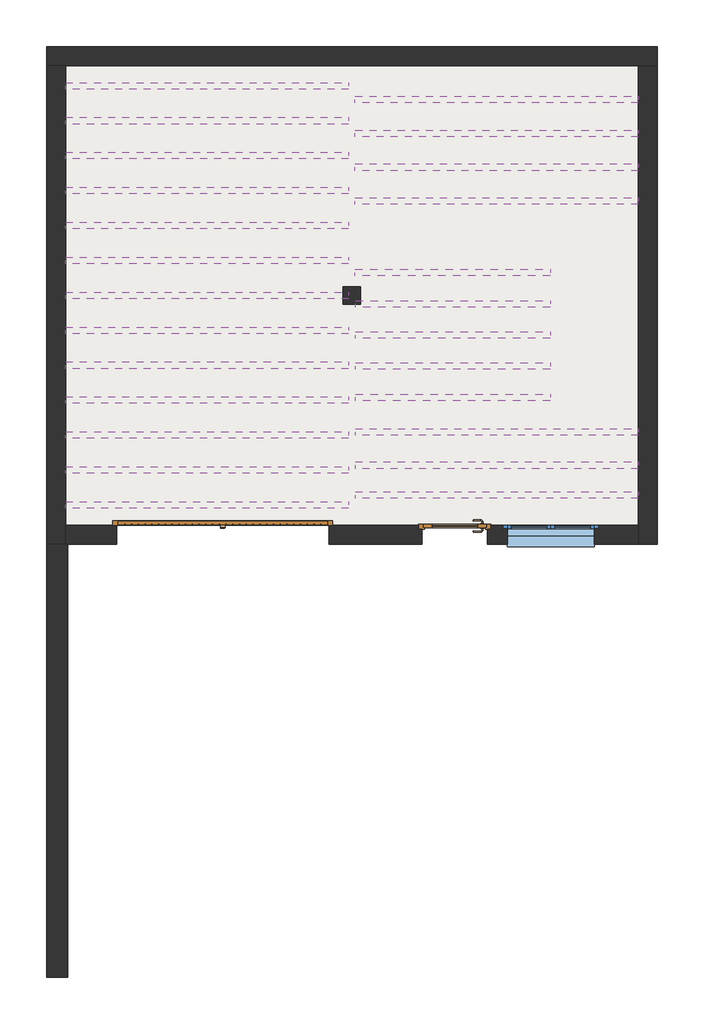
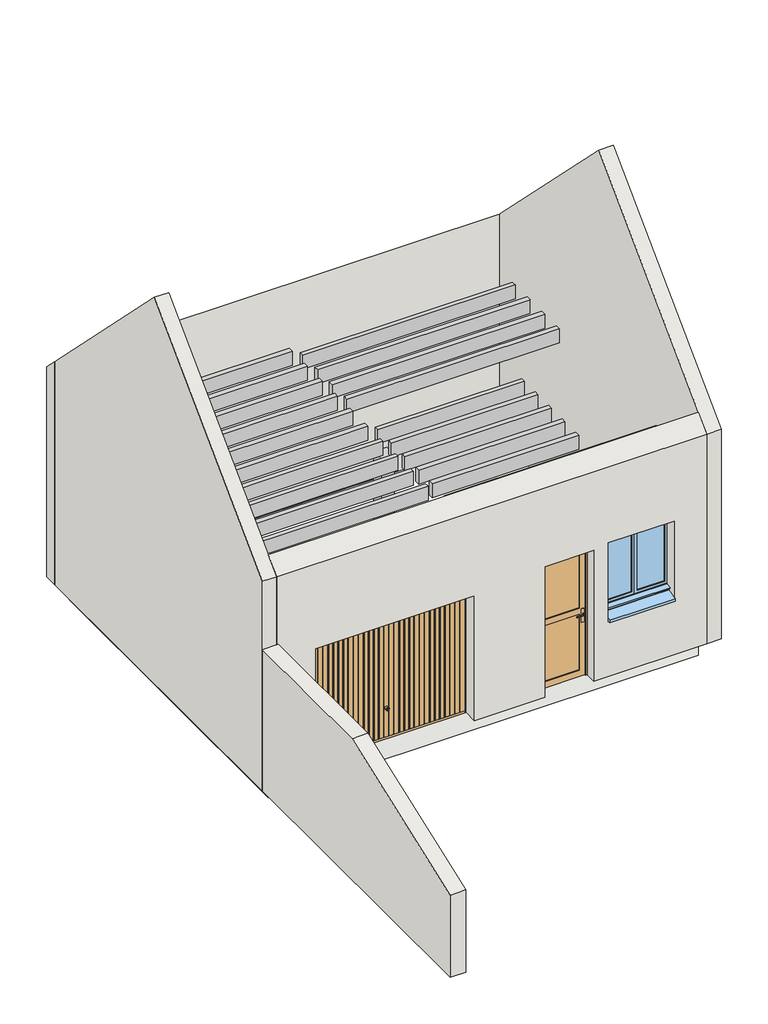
# One storey, incomplete: 25 beams, 5 walls, 2 doors, 1 column, 1 slab, 1 window.
"""IFC4 building model written with IfcOpenShell, lengths in millimetres."""

from ifc_helpers import new_model, si_unit, frame, origin, place, context, project, spatial, polyline, outline, extrude, faceted_brep, transform, mapped, element, save
from components import beam_75x225_1d599c9f, beam_75x225_ac8073e9, beam_75x225_075d5b91, beam_75x225_b796b0c5, beam_75x225_947370aa, beam_75x225_e5a17f33, beam_75x225_548b8b28, beam_75x225_47b7fd17, beam_75x225_99bbb481, poteau_bois_200_x_200_9f611ec2, door_f3a96b27, door_0_73m_x_2_10m_d47f2a6c, window_100x115_8c406891

model = new_model("IFC4")

# Units and contexts
model_context = context("Model", 3, world=origin())
ifc_project = project(units=[si_unit("LENGTHUNIT", "METRE", prefix="MILLI")], contexts=[model_context])

# Site, building, storey
site = spatial("IfcSite", under=ifc_project)
building = spatial("IfcBuilding", under=site)
storey = spatial("IfcBuildingStorey", under=building, Name="Plan du rez de chaussée", Elevation=0.0)

# Beams
placement = place(None, origin())
beam_75x225_shape = beam_75x225_1d599c9f(model_context)
element("IfcBeam", 1, ObjectType="Madrier : 75x225", at=placement, inside=storey, context=model_context, shape_type="MappedRepresentation", body=[
    mapped(beam_75x225_shape, transform((1609.9723938, 28069.4326555, 2607.5), x_axis=(1.0, 0.0, 0.0), y_axis=(0.0, 1.0, 0.0), z_axis=(0.0, 0.0, 1.0))),
])
beam_75x225_2_shape = beam_75x225_ac8073e9(model_context)
element("IfcBeam", 2, ObjectType="Madrier : 75x225", at=placement, inside=storey, context=model_context, shape_type="MappedRepresentation", body=[
    mapped(beam_75x225_2_shape, transform((-1780.0276062, 28226.9326555, 2607.5), x_axis=(1.0, 0.0, 0.0), y_axis=(0.0, 1.0, 0.0), z_axis=(0.0, 0.0, 1.0))),
])
element("IfcBeam", 3, ObjectType="Madrier : 75x225", at=placement, inside=storey, context=model_context, shape_type="MappedRepresentation", body=[
    mapped(beam_75x225_2_shape, transform((-1780.0276062, 27826.9326555, 2607.5), x_axis=(1.0, 0.0, 0.0), y_axis=(0.0, 1.0, 0.0), z_axis=(0.0, 0.0, 1.0))),
])
element("IfcBeam", 4, ObjectType="Madrier : 75x225", at=placement, inside=storey, context=model_context, shape_type="MappedRepresentation", body=[
    mapped(beam_75x225_2_shape, transform((-1780.0276062, 27426.9326555, 2607.5), x_axis=(1.0, 0.0, 0.0), y_axis=(0.0, 1.0, 0.0), z_axis=(0.0, 0.0, 1.0))),
])
beam_75x225_3_shape = beam_75x225_075d5b91(model_context)
element("IfcBeam", 5, ObjectType="Madrier : 75x225", at=placement, inside=storey, context=model_context, shape_type="MappedRepresentation", body=[
    mapped(beam_75x225_3_shape, transform((-1743.7776062, 25826.9326555, 2607.5), x_axis=(1.0, 0.0, 0.0), y_axis=(0.0, 1.0, 0.0), z_axis=(0.0, 0.0, 1.0))),
])
element("IfcBeam", 6, ObjectType="Madrier : 75x225", at=placement, inside=storey, context=model_context, shape_type="MappedRepresentation", body=[
    mapped(beam_75x225_3_shape, transform((-1743.7776062, 25426.9326555, 2607.5), x_axis=(1.0, 0.0, 0.0), y_axis=(0.0, 1.0, 0.0), z_axis=(0.0, 0.0, 1.0))),
])
element("IfcBeam", 7, ObjectType="Madrier : 75x225", at=placement, inside=storey, context=model_context, shape_type="MappedRepresentation", body=[
    mapped(beam_75x225_3_shape, transform((-1743.7776062, 25026.9326555, 2607.5), x_axis=(1.0, 0.0, 0.0), y_axis=(0.0, 1.0, 0.0), z_axis=(0.0, 0.0, 1.0))),
])
element("IfcBeam", 8, ObjectType="Madrier : 75x225", at=placement, inside=storey, context=model_context, shape_type="MappedRepresentation", body=[
    mapped(beam_75x225_3_shape, transform((-1743.7776062, 24626.9326555, 2607.5), x_axis=(1.0, 0.0, 0.0), y_axis=(0.0, 1.0, 0.0), z_axis=(0.0, 0.0, 1.0))),
])
element("IfcBeam", 9, ObjectType="Madrier : 75x225", at=placement, inside=storey, context=model_context, shape_type="MappedRepresentation", body=[
    mapped(beam_75x225_3_shape, transform((-1743.7776062, 24226.9326555, 2607.5), x_axis=(1.0, 0.0, 0.0), y_axis=(0.0, 1.0, 0.0), z_axis=(0.0, 0.0, 1.0))),
])
element("IfcBeam", 10, ObjectType="Madrier : 75x225", at=placement, inside=storey, context=model_context, shape_type="MappedRepresentation", body=[
    mapped(beam_75x225_3_shape, transform((-1743.7776062, 23826.9326555, 2607.5), x_axis=(1.0, 0.0, 0.0), y_axis=(0.0, 1.0, 0.0), z_axis=(0.0, 0.0, 1.0))),
])
element("IfcBeam", 11, ObjectType="Madrier : 75x225", at=placement, inside=storey, context=model_context, shape_type="MappedRepresentation", body=[
    mapped(beam_75x225_3_shape, transform((-1743.7776062, 23426.9326555, 2607.5), x_axis=(1.0, 0.0, 0.0), y_axis=(0.0, 1.0, 0.0), z_axis=(0.0, 0.0, 1.0))),
])
beam_75x225_4_shape = beam_75x225_b796b0c5(model_context)
element("IfcBeam", 12, ObjectType="Madrier : 75x225", at=placement, inside=storey, context=model_context, shape_type="MappedRepresentation", body=[
    mapped(beam_75x225_4_shape, transform((1629.1310144, 23881.9326555, 2607.5), x_axis=(1.0, 0.0, 0.0), y_axis=(0.0, 1.0, 0.0), z_axis=(0.0, 0.0, 1.0))),
])
element("IfcBeam", 13, ObjectType="Madrier : 75x225", at=placement, inside=storey, context=model_context, shape_type="MappedRepresentation", body=[
    mapped(beam_75x225_4_shape, transform((1629.1310144, 23539.4326555, 2607.5), x_axis=(1.0, 0.0, 0.0), y_axis=(0.0, 1.0, 0.0), z_axis=(0.0, 0.0, 1.0))),
])
beam_75x225_5_shape = beam_75x225_947370aa(model_context)
element("IfcBeam", 14, ObjectType="Madrier : 75x225", at=placement, inside=storey, context=model_context, shape_type="MappedRepresentation", body=[
    mapped(beam_75x225_5_shape, transform((1069.9723938, 26087.3493222, 2607.5), x_axis=(1.0, 0.0, 0.0), y_axis=(0.0, 1.0, 0.0), z_axis=(0.0, 0.0, 1.0))),
])
beam_75x225_6_shape = beam_75x225_e5a17f33(model_context)
element("IfcBeam", 15, ObjectType="Madrier : 75x225", at=placement, inside=storey, context=model_context, shape_type="MappedRepresentation", body=[
    mapped(beam_75x225_6_shape, transform((1069.9723938, 25730.2659888, 2607.5), x_axis=(1.0, 0.0, 0.0), y_axis=(0.0, 1.0, 0.0), z_axis=(0.0, 0.0, 1.0))),
])
element("IfcBeam", 16, ObjectType="Madrier : 75x225", at=placement, inside=storey, context=model_context, shape_type="MappedRepresentation", body=[
    mapped(beam_75x225_6_shape, transform((1069.9723938, 25373.1826555, 2607.5), x_axis=(1.0, 0.0, 0.0), y_axis=(0.0, 1.0, 0.0), z_axis=(0.0, 0.0, 1.0))),
])
element("IfcBeam", 17, ObjectType="Madrier : 75x225", at=placement, inside=storey, context=model_context, shape_type="MappedRepresentation", body=[
    mapped(beam_75x225_6_shape, transform((1069.9723938, 25016.0993222, 2607.5), x_axis=(1.0, 0.0, 0.0), y_axis=(0.0, 1.0, 0.0), z_axis=(0.0, 0.0, 1.0))),
])
element("IfcBeam", 18, ObjectType="Madrier : 75x225", at=placement, inside=storey, context=model_context, shape_type="MappedRepresentation", body=[
    mapped(beam_75x225_6_shape, transform((1069.9723938, 24659.0159888, 2607.5), x_axis=(1.0, 0.0, 0.0), y_axis=(0.0, 1.0, 0.0), z_axis=(0.0, 0.0, 1.0))),
])
beam_75x225_7_shape = beam_75x225_548b8b28(model_context)
element("IfcBeam", 19, ObjectType="Madrier : 75x225", at=placement, inside=storey, context=model_context, shape_type="MappedRepresentation", body=[
    mapped(beam_75x225_7_shape, transform((1629.9723938, 24261.9326555, 2607.5), x_axis=(1.0, 0.0, 0.0), y_axis=(0.0, 1.0, 0.0), z_axis=(0.0, 0.0, 1.0))),
])
beam_75x225_8_shape = beam_75x225_47b7fd17(model_context)
element("IfcBeam", 20, ObjectType="Madrier : 75x225", at=placement, inside=storey, context=model_context, shape_type="MappedRepresentation", body=[
    mapped(beam_75x225_8_shape, transform((-1743.7776062, 27026.9326555, 2607.5), x_axis=(1.0, 0.0, 0.0), y_axis=(0.0, 1.0, 0.0), z_axis=(0.0, 0.0, 1.0))),
])
element("IfcBeam", 21, ObjectType="Madrier : 75x225", at=placement, inside=storey, context=model_context, shape_type="MappedRepresentation", body=[
    mapped(beam_75x225_8_shape, transform((-1743.7776062, 26626.9326555, 2607.5), x_axis=(1.0, 0.0, 0.0), y_axis=(0.0, 1.0, 0.0), z_axis=(0.0, 0.0, 1.0))),
])
element("IfcBeam", 22, ObjectType="Madrier : 75x225", at=placement, inside=storey, context=model_context, shape_type="MappedRepresentation", body=[
    mapped(beam_75x225_8_shape, transform((-1743.7776062, 26226.9326555, 2607.5), x_axis=(1.0, 0.0, 0.0), y_axis=(0.0, 1.0, 0.0), z_axis=(0.0, 0.0, 1.0))),
])
beam_75x225_9_shape = beam_75x225_99bbb481(model_context)
element("IfcBeam", 23, ObjectType="Madrier : 75x225", at=placement, inside=storey, context=model_context, shape_type="MappedRepresentation", body=[
    mapped(beam_75x225_9_shape, transform((1573.7223938, 27681.9326555, 2607.5), x_axis=(1.0, 0.0, 0.0), y_axis=(0.0, 1.0, 0.0), z_axis=(0.0, 0.0, 1.0))),
])
element("IfcBeam", 24, ObjectType="Madrier : 75x225", at=placement, inside=storey, context=model_context, shape_type="MappedRepresentation", body=[
    mapped(beam_75x225_9_shape, transform((1573.7223938, 27294.4326555, 2607.5), x_axis=(1.0, 0.0, 0.0), y_axis=(0.0, 1.0, 0.0), z_axis=(0.0, 0.0, 1.0))),
])
element("IfcBeam", 25, ObjectType="Madrier : 75x225", at=placement, inside=storey, context=model_context, shape_type="MappedRepresentation", body=[
    mapped(beam_75x225_9_shape, transform((1573.7223938, 26906.9326555, 2607.5), x_axis=(1.0, 0.0, 0.0), y_axis=(0.0, 1.0, 0.0), z_axis=(0.0, 0.0, 1.0))),
])

# Column
poteau_bois_200_x_200_shape = poteau_bois_200_x_200_9f611ec2(model_context)
element("IfcColumn", 26, ObjectType="Poteau Bois : 200 x 200", at=placement, inside=storey, context=model_context, shape_type="MappedRepresentation", body=[
    mapped(poteau_bois_200_x_200_shape, transform((-85.0276062, 25826.9326555, 0.0), x_axis=(1.0, 0.0, 0.0), y_axis=(0.0, 1.0, 0.0), z_axis=(0.0, 0.0, 1.0))),
])

# Doors
door_shape = door_f3a96b27(model_context)
element("IfcDoor", 27, ObjectType="Garage basculante : Garage basculante", at=placement, inside=storey, context=model_context, shape_type="MappedRepresentation", body=[
    mapped(door_shape, transform((-1580.0276062, 22743.3803297, 0.0), x_axis=(-1.0, 0.0, 0.0), y_axis=(0.0, -1.0, 0.0), z_axis=(0.0, 0.0, 1.0))),
])
door_0_73m_x_2_10m_shape = door_0_73m_x_2_10m_d47f2a6c(model_context)
element("IfcDoor", 28, ObjectType="PVC Panneau Vitré - Traverse : 0.73m x 2.10m", at=placement, inside=storey, context=model_context, shape_type="MappedRepresentation", body=[
    mapped(door_0_73m_x_2_10m_shape, transform((1094.9723938, 23086.9326555, 0.0), x_axis=(-1.0, 0.0, 0.0), y_axis=(0.0, -1.0, 0.0), z_axis=(0.0, 0.0, 1.0))),
])

# Slab
element("IfcSlab", 29, ObjectType="Dalle Béton -12 cm", at=placement, inside=storey, context=model_context, shape_type="SweptSolid", body=[
    extrude(outline(polyline([(-3365.0276062, 28456.9326555), (3194.9723938, 28456.9326555), (3194.9723938, 23196.9326555), (-3365.0276062, 23196.9326555), (-3365.0276062, 28456.9326555)])), frame((0.0, 0.0, -320.0), z_axis=(0.0, 0.0, 1.0), x_axis=(1.0, 0.0, 0.0)), (0.0, 0.0, 1.0), 320.0),
])

# Walls
element("IfcWall", 30, ObjectType="EXTERIEUR BBM 20 cm+  ENDUIT", at=placement, inside=storey, context=model_context, shape_type="Brep", body=[
    faceted_brep([(-3585.0276062, 28456.9326555, 0.0), (-3365.0276062, 28456.9326555, 0.0), (3194.9723938, 28456.9326555, 0.0), (3414.9723938, 28456.9326555, 0.0), (3414.9723938, 28456.9326555, 3600.0), (3194.9723938, 28456.9326555, 3600.0), (-3365.0276062, 28456.9326555, 3600.0), (-3585.0276062, 28456.9326555, 3600.0), (-3585.0276062, 28676.9326555, 0.0), (-3585.0276062, 28676.9326555, 3380.0), (3414.9723938, 28676.9326555, 3380.0), (3414.9723938, 28676.9326555, 0.0)], [[[0, 1, 2, 3, 4, 5, 6, 7]], [[8, 9, 10, 11]], [[3, 2, 1, 0, 8, 11]], [[0, 7, 9, 8]], [[4, 3, 11, 10]], [[7, 6, 5, 4, 10, 9]]]),
])
element("IfcWall", 31, ObjectType="EXTERIEUR BBM 20 cm+  ENDUIT", at=placement, inside=storey, context=model_context, shape_type="Brep", body=[
    faceted_brep([(-3365.0276062, 22976.9326555, 3380.0), (-3365.0276062, 22976.9326555, 0.0), (-3365.0276062, 23196.9326555, 0.0), (-3365.0276062, 28456.9326555, 0.0), (-3365.0276062, 28456.9326555, 3600.0), (-3365.0276062, 25826.9326555, 6230.0), (-3365.0276062, 23196.9326555, 3600.0), (-3585.0276062, 22976.9326555, 0.0), (-3585.0276062, 22976.9326555, 3380.0), (-3585.0276062, 25826.9326555, 6230.0), (-3585.0276062, 28456.9326555, 3600.0), (-3585.0276062, 28456.9326555, 0.0)], [[[0, 1, 2, 3, 4, 5, 6]], [[7, 8, 9, 10, 11]], [[3, 2, 1, 7, 11]], [[0, 8, 7, 1]], [[4, 3, 11, 10]], [[0, 6, 5, 9, 8]], [[5, 4, 10, 9]]]),
])
element("IfcWall", 32, ObjectType="EXTERIEUR BBM 20 cm+  ENDUIT", at=placement, inside=storey, context=model_context, shape_type="Brep", body=[
    faceted_brep([(3194.9723938, 28456.9326555, 0.0), (3194.9723938, 23196.9326555, 0.0), (3194.9723938, 22976.9326555, 0.0), (3194.9723938, 22976.9326555, 3380.0), (3194.9723938, 23196.9326555, 3600.0), (3194.9723938, 25826.9326555, 6230.0), (3194.9723938, 28456.9326555, 3600.0), (3414.9723938, 28456.9326555, 0.0), (3414.9723938, 28456.9326555, 3600.0), (3414.9723938, 25826.9326555, 6230.0), (3414.9723938, 22976.9326555, 3380.0), (3414.9723938, 22976.9326555, 0.0)], [[[0, 1, 2, 3, 4, 5, 6]], [[7, 8, 9, 10, 11]], [[2, 1, 0, 7, 11]], [[3, 2, 11, 10]], [[0, 6, 8, 7]], [[6, 5, 9, 8]], [[5, 4, 3, 10, 9]]]),
])
element("IfcWall", 33, ObjectType="EXTERIEUR BBM 20 cm+  ENDUIT", at=placement, inside=storey, context=model_context, shape_type="Brep", body=[
    faceted_brep([(3194.9723938, 23196.9326555, 3600.0), (3194.9723938, 23196.9326555, 0.0), (1509.9723938, 23196.9326555, 0.0), (1509.9723938, 23196.9326555, 2150.0), (679.9723938, 23196.9326555, 2150.0), (679.9723938, 23196.9326555, 0.0), (-350.0276062, 23196.9326555, 0.0), (-350.0276062, 23196.9326555, 2015.0), (-2780.0276062, 23196.9326555, 2015.0), (-2780.0276062, 23196.9326555, 0.0), (-3365.0276062, 23196.9326555, 0.0), (-3365.0276062, 23196.9326555, 3600.0), (1644.9723938, 23196.9326555, 1000.0), (2744.9723938, 23196.9326555, 1000.0), (2744.9723938, 23196.9326555, 2200.0), (1644.9723938, 23196.9326555, 2200.0), (3194.9723938, 22976.9326555, 0.0), (3194.9723938, 22976.9326555, 3380.0), (-3365.0276062, 22976.9326555, 3380.0), (-3365.0276062, 22976.9326555, 0.0), (-2780.0276062, 22976.9326555, 0.0), (-2780.0276062, 22976.9326555, 2015.0), (-350.0276062, 22976.9326555, 2015.0), (-350.0276062, 22976.9326555, 0.0), (719.9723938, 22976.9326555, 0.0), (719.9723938, 22976.9326555, 2110.0), (1469.9723938, 22976.9326555, 2110.0), (1469.9723938, 22976.9326555, 0.0), (1694.9723938, 22976.9326555, 2150.0), (2694.9723938, 22976.9326555, 2150.0), (2694.9723938, 22976.9326555, 879.860817), (1694.9723938, 22976.9326555, 879.860817), (1469.9723938, 23146.9326555, 0.0), (1509.9723938, 23146.9326555, 0.0), (679.9723938, 23146.9326555, 0.0), (719.9723938, 23146.9326555, 0.0), (719.9723938, 23146.9326555, 2110.0), (1469.9723938, 23146.9326555, 2110.0), (1509.9723938, 23146.9326555, 2150.0), (679.9723938, 23146.9326555, 2150.0), (1694.9723938, 23156.9326555, 2150.0), (2694.9723938, 23156.9326555, 2150.0), (1694.9723938, 23156.9326555, 1000.0), (1694.9723938, 23108.1576174, 879.860817), (1694.9723938, 23156.9326555, 922.1), (1644.9723938, 23156.9326555, 1000.0), (2694.9723938, 23156.9326555, 1000.0), (2744.9723938, 23156.9326555, 1000.0), (2694.9723938, 23108.1576174, 879.860817), (2694.9723938, 23156.9326555, 922.1), (1644.9723938, 23156.9326555, 2200.0), (2744.9723938, 23156.9326555, 2200.0)], [[[0, 1, 2, 3, 4, 5, 6, 7, 8, 9, 10, 11], [12, 13, 14, 15]], [[16, 17, 18, 19, 20, 21, 22, 23, 24, 25, 26, 27], [28, 29, 30, 31]], [[1, 16, 27, 32, 33, 2]], [[19, 10, 9, 20]], [[23, 6, 5, 34, 35, 24]], [[1, 0, 17, 16]], [[10, 19, 18, 11]], [[0, 11, 18, 17]], [[21, 8, 7, 22]], [[22, 7, 6, 23]], [[8, 21, 20, 9]], [[36, 37, 26, 25]], [[37, 32, 27, 26]], [[35, 36, 25, 24]], [[33, 38, 3, 2]], [[37, 36, 35, 34, 39, 38, 33, 32]], [[3, 38, 39, 4]], [[39, 34, 5, 4]], [[28, 40, 41, 29]], [[42, 40, 28, 31, 43, 44]], [[13, 12, 45, 42, 46, 47]], [[48, 30, 29, 41, 46, 49]], [[12, 15, 50, 45]], [[50, 51, 47, 46, 41, 40, 42, 45]], [[15, 14, 51, 50]], [[51, 14, 13, 47]], [[43, 31, 30, 48]], [[43, 48, 49, 44]], [[44, 49, 46, 42]]]),
])
element("IfcWall", 34, ObjectType="MUR PARPAING ENDUIT 24", at=placement, inside=storey, context=model_context, shape_type="SweptSolid", body=[
    extrude(outline(polyline([(22976.9326555, 0.0), (18016.9326555, 0.0), (18016.9326555, 1328.0171931), (20606.9326555, 2280.0), (22976.9326555, 2280.0), (22976.9326555, 0.0)])), frame((-3585.0276062, 0.0, 0.0), z_axis=(1.0, 0.0, 0.0), x_axis=(0.0, 1.0, 0.0)), (0.0, 0.0, 1.0), 240.0),
])

# Window
window_100x115_shape = window_100x115_8c406891(model_context)
element("IfcWindow", 35, ObjectType="FR_2 Vantaux Appui Béton : 100x115", at=placement, inside=storey, context=model_context, shape_type="MappedRepresentation", body=[
    mapped(window_100x115_shape, transform((2189.9723938, 22796.9326555, 400.0), x_axis=(1.0, 0.0, 0.0), y_axis=(0.0, 1.0, 0.0), z_axis=(0.0, 0.0, 1.0))),
])

save(model, "model.ifc")
